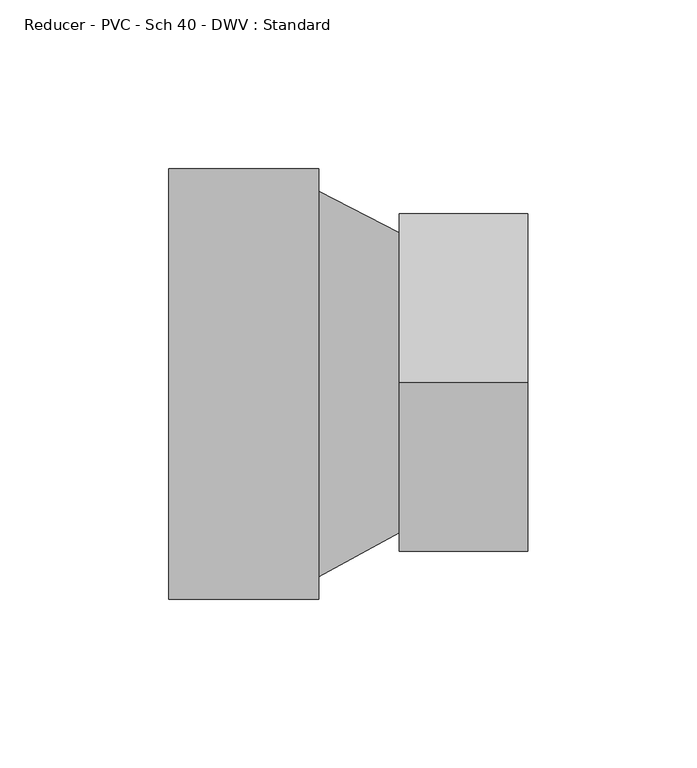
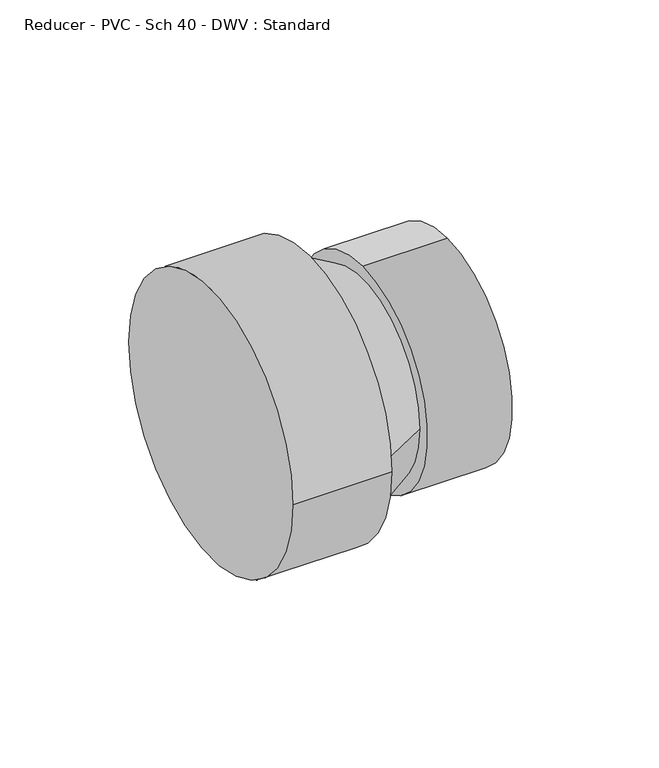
"""IFC4 building model written with IfcOpenShell, lengths in millimetres: pipe fitting geometry, Reducer - PVC - Sch 40 - DWV : Standard."""

from ifc_helpers import new_model, si_unit, frame, origin, place, context, project, spatial, circle_curve, source, transform, mapped, element, save
from ifc_brep_helpers import plane_surface, cylinder_surface, spline_surface, advanced_brep


def reducer_pvc_sch_40_dwv_standard_33e9f33e(model_context):
    return source(origin(), model_context, "Body", "AdvancedBrep", [
        advanced_brep(
        [(0.0, 63.754, 0.0), (0.0, -63.754, 0.0), (44.45, 63.754, 0.0), (44.45, -63.754, 0.0), (44.45, -57.15, 0.0), (44.45, 57.15, 0.0), (68.2752, 44.8475481, 0.0), (68.2752, -44.0524519, 0.0), (68.2752, 0.3975481, 50.2666), (68.2752, 0.3975481, -50.2666), (106.3752, 0.3975481, 50.2666), (106.3752, 0.3975481, -50.2666)],
        [
            (0, 1, circle_curve(frame((0.0, 0.0, 0.0), z_axis=(-1.0, 0.0, 0.0), x_axis=(0.0, -1.0, 0.0)), 63.754)),
            (1, 0, circle_curve(frame((0.0, 0.0, 0.0), z_axis=(-1.0, 0.0, 0.0), x_axis=(0.0, -1.0, 0.0)), 63.754)),
            (2, 3, circle_curve(frame((44.45, 0.0, 0.0), z_axis=(1.0, 0.0, 0.0), x_axis=(0.0, -1.0, 0.0)), 63.754)),
            (3, 2, circle_curve(frame((44.45, 0.0, 0.0), z_axis=(1.0, 0.0, 0.0), x_axis=(0.0, -1.0, 0.0)), 63.754)),
            (4, 5, circle_curve(frame((44.45, 0.0, 0.0), z_axis=(-1.0, 0.0, 0.0), x_axis=(0.0, -1.0, 0.0)), 57.15)),
            (5, 4, circle_curve(frame((44.45, 0.0, 0.0), z_axis=(-1.0, 0.0, 0.0), x_axis=(0.0, -1.0, 0.0)), 57.15)),
            (1, 3),
            (2, 0),
            (5, 6),
            (6, 7, circle_curve(frame((68.2752, 0.3975481, 0.0), z_axis=(-1.0, 0.0, 0.0), x_axis=(0.0, -1.0, 0.0)), 44.45)),
            (7, 4),
            (7, 6, circle_curve(frame((68.2752, 0.3975481, 0.0), z_axis=(-1.0, 0.0, 0.0), x_axis=(0.0, -1.0, 0.0)), 44.45)),
            (8, 9, circle_curve(frame((68.2752, 0.3975481, 0.0), z_axis=(-1.0, 0.0, 0.0), x_axis=(0.0, 0.0, -1.0)), 50.2666)),
            (9, 8, circle_curve(frame((68.2752, 0.3975481, 0.0), z_axis=(-1.0, 0.0, 0.0), x_axis=(0.0, 0.0, -1.0)), 50.2666)),
            (10, 11, circle_curve(frame((106.3752, 0.3975481, 0.0), z_axis=(1.0, 0.0, 0.0), x_axis=(0.0, 0.0, -1.0)), 50.2666)),
            (11, 10, circle_curve(frame((106.3752, 0.3975481, 0.0), z_axis=(1.0, 0.0, 0.0), x_axis=(0.0, 0.0, -1.0)), 50.2666)),
            (9, 11),
            (10, 8),
        ],
        [
            plane_surface(frame((0.0, 0.0, 0.0), z_axis=(-1.0, 0.0, 0.0), x_axis=(0.0, 0.0, 1.0))),
            plane_surface(frame((44.45, 0.0, 0.0), z_axis=(1.0, 0.0, 0.0), x_axis=(0.0, 0.0, 1.0))),
            cylinder_surface(frame((0.0, 0.0, 0.0), z_axis=(-1.0, 0.0, 0.0), x_axis=(0.0, -1.0, 0.0)), 63.754),
            spline_surface(1, 2, [[(44.45, 57.15, 0.0), (44.45, 57.15, -57.15), (44.45, 0.0, -57.15), (44.45, -57.15, -57.15), (44.45, -57.15, 0.0)], [(68.2752, 44.8475481, 0.0), (68.2752, 44.8475481, -44.449999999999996), (68.2752, 0.3975481, -44.449999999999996), (68.2752, -44.052451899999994, -44.449999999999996), (68.2752, -44.0524519, 0.0)]], [2, 2], [3, 2, 3], [0.0, 1.0], [0.0, 1.0, 2.0], weights=[[1.0, 0.7071067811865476, 1.0, 0.7071067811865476, 1.0], [1.0, 0.7071067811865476, 1.0, 0.7071067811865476, 1.0]]),
            spline_surface(1, 2, [[(44.45, -57.15, 0.0), (44.45, -57.15, 57.15), (44.45, 0.0, 57.15), (44.45, 57.15, 57.15), (44.45, 57.15, 0.0)], [(68.2752, -44.0524519, 0.0), (68.2752, -44.0524519, 44.45), (68.2752, 0.3975481, 44.45), (68.2752, 44.847548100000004, 44.45), (68.2752, 44.8475481, 0.0)]], [2, 2], [3, 2, 3], [0.0, 1.0], [0.0, 1.0, 2.0], weights=[[1.0, 0.7071067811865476, 1.0, 0.7071067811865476, 1.0], [1.0, 0.7071067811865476, 1.0, 0.7071067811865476, 1.0]]),
            plane_surface(frame((68.2752, 0.3975481, 0.0), z_axis=(-1.0, 0.0, 0.0), x_axis=(0.0, -1.0, 0.0))),
            plane_surface(frame((106.3752, 0.3975481, 0.0), z_axis=(1.0, 0.0, 0.0), x_axis=(0.0, -1.0, 0.0))),
            cylinder_surface(frame((68.2752, 0.3975481, 0.0), z_axis=(-1.0, 0.0, 0.0), x_axis=(0.0, 0.0, -1.0)), 50.2666),
        ],
        [
            (0, [[1, 2]]),
            (1, [[3, 4], [5, 6]]),
            (2, [[7, -3, 8, -2]]),
            (2, [[-8, -4, -7, -1]]),
            (3, [[-6, 9, 10, 11]]),
            (4, [[12, -9, -5, -11]]),
            (5, [[13, 14], [-12, -10]]),
            (6, [[15, 16]]),
            (7, [[17, -15, 18, -14]]),
            (7, [[-18, -16, -17, -13]]),
        ],
    ),
    ])


if __name__ == "__main__":
    model = new_model("IFC4")
    model_context = context("Model", 3, world=origin())
    ifc_project = project(units=[si_unit("LENGTHUNIT", "METRE", prefix="MILLI")], contexts=[model_context])
    site = spatial("IfcSite", under=ifc_project)
    building = spatial("IfcBuilding", under=site)
    placement = place(None, origin())
    reducer_pvc_sch_40_dwv_standard_shape = reducer_pvc_sch_40_dwv_standard_33e9f33e(model_context)
    element("IfcPipeFitting", 1, ObjectType="Reducer - PVC - Sch 40 - DWV : Standard", at=placement, inside=building, context=model_context, shape_type="MappedRepresentation", body=[
        mapped(reducer_pvc_sch_40_dwv_standard_shape, transform((0.0, 0.0, 0.0), x_axis=(1.0, 0.0, 0.0), y_axis=(0.0, 1.0, 0.0), z_axis=(0.0, 0.0, 1.0))),
    ])
    save(model, "model.ifc")
